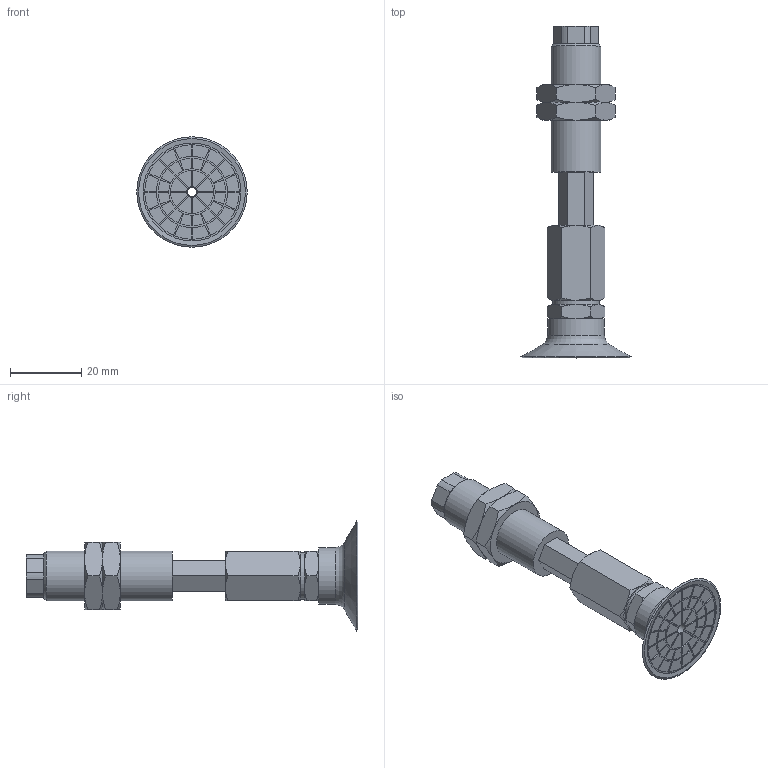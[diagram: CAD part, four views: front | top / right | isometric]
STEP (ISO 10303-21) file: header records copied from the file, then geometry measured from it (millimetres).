
FILE_DESCRIPTION(('STEP AP203'),'1');
FILE_NAME('.stp','2025-08-26T08:10:16',(' '),(' '),'Spatial InterOp 3D',' ',' ');
FILE_SCHEMA(('CONFIG_CONTROL_DESIGN'));
Length unit declared in the file: millimetre
Products named in the file (7): BNABPATH-30B-15-※; NAPATH-30-15--M; ADAPTER; Nut-25-S; NAPATH-30-15--F; BPAG-30B-※; TN-PA-30B-M6
Assembly tree (7 placements, depth 2):
  BNABPATH-30B-15-※
    NAPATH-30-15--M
    ADAPTER
    Nut-25-S  x2
    NAPATH-30-15--F
    BPAG-30B-※
    TN-PA-30B-M6
Bounding box: 31.04 x 93.2 x 31.04 mm (x, y, z)
Volume: 15735 mm3; surface area: 11935.6 mm2
Topology: 7 solids, 7 shells, 358 faces, 842 edges, 539 vertices
Faces by surface type: plane 197, cylinder 95, cone 60, torus 6
Full cylindrical faces by diameter (mm): 2.5 x1, 3 x3, 4.134 x1, 4.917 x1, 6 x3, 10 x2, 12.917 x2, 13 x1, 14 x1, 16 x1, 27.5 x1
Entity records: 10021 total; most frequent: CARTESIAN_POINT 1985, DIRECTION 1627, ORIENTED_EDGE 1508, EDGE_CURVE 754, AXIS2_PLACEMENT_3D 602, VERTEX_POINT 504, LINE 423, VECTOR 423
